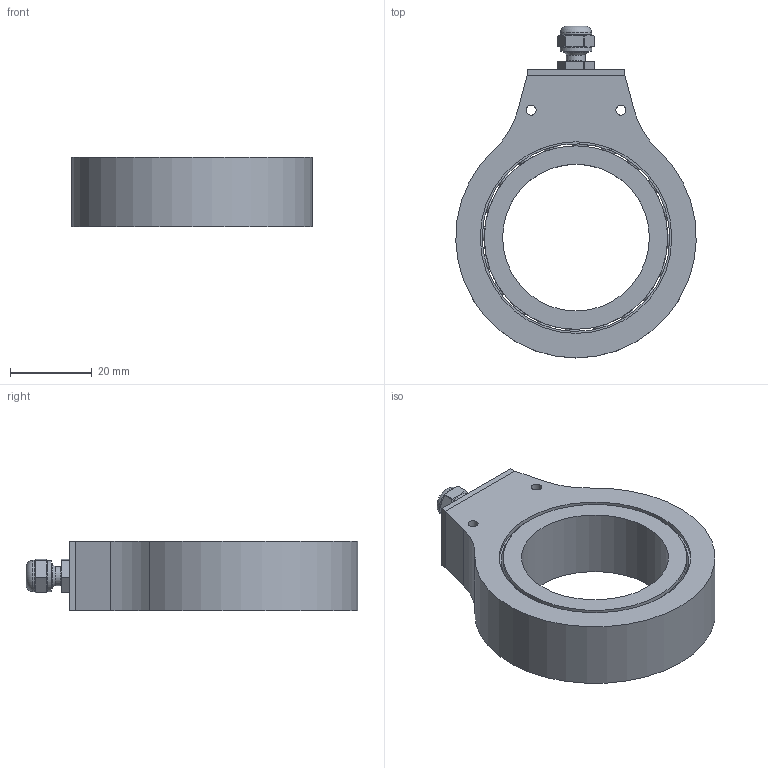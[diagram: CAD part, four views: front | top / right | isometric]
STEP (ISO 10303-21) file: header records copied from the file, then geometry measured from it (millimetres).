
FILE_DESCRIPTION(/* description */ (''),/* implementation_level */ '2;1');
FILE_NAME(/* name */ 'F:\Sensorik\Gelenkwellenübertrager\3D_Lander\GWÜ - geschlossen\Ø36\kunde\ZSB.stp',/* time_stamp */ '2019-10-18T09:29:18+02:00',/* author */ ('dschaefer'),/* organization */ (''),/* preprocessor_version */ 'ST-DEVELOPER v16.5',/* originating_system */ 'Autodesk Inventor 2017',/* authorisation */ '');
FILE_SCHEMA (('AUTOMOTIVE_DESIGN { 1 0 10303 214 3 1 1 }'));
Length unit declared in the file: millimetre
Products named in the file (8): ZSB; Stator; Rotor; Antennenring_Rotor; Antennenring_Stator; DIN 625 SKF - SKF 61808; A01_000X; Deckel
Assembly tree (7 placements, depth 2):
  ZSB
    Stator
    Rotor
    Antennenring_Rotor
    Antennenring_Stator
    DIN 625 SKF - SKF 61808
    A01_000X
    Deckel
Bounding box: 58.97 x 81.42 x 17 mm (x, y, z)
Volume: 25653.2 mm3; surface area: 29299 mm2
Topology: 7 solids, 7 shells, 204 faces, 616 edges, 406 vertices
Faces by surface type: cylinder 65, plane 58, torus 48, sphere 20, cone 13
Full cylindrical faces by diameter (mm): 1.567 x4, 2.3 x4, 2.4 x1, 2.459 x2, 3.197 x1, 4.695 x2, 5.994 x2, 6 x1, 7.692 x2, 36 x1, 38 x2, 40 x4, 40.15 x2, 43 x1, 43.84 x2, 45 x2, 46 x1, 47 x1, 48 x1, 48.16 x2, 52 x6, 54 x2
Entity records: 6588 total; most frequent: DIRECTION 1272, CARTESIAN_POINT 1090, ORIENTED_EDGE 936, AXIS2_PLACEMENT_3D 598, EDGE_CURVE 468, VERTEX_POINT 346, EDGE_LOOP 340, CIRCLE 299
